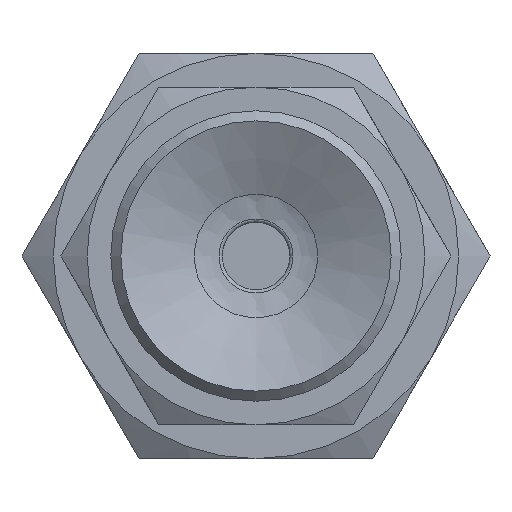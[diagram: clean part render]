
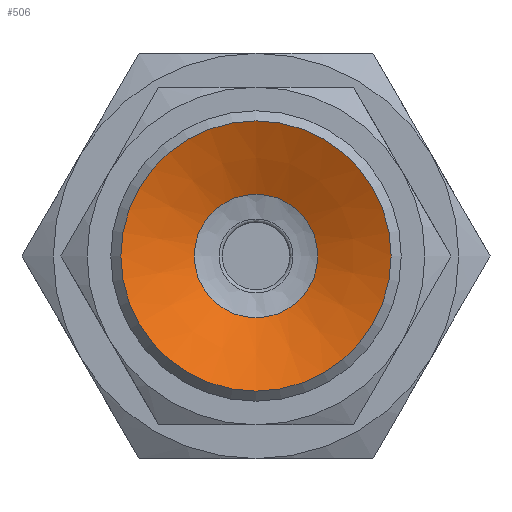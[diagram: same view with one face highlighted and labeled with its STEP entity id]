
A CAD part, front view. The second image highlights one B-rep face of the part: STEP entity #506.
In plain terms, the highlighted conical face has half-angle 65 degrees and reference radius 1.427 mm.
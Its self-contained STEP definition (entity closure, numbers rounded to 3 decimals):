
#506=ADVANCED_FACE('',(#780,#781),#782,.F.);
#780=FACE_BOUND('',#1067,.T.);
#781=FACE_OUTER_BOUND('',#1068,.T.);
#782=CONICAL_SURFACE('',#1069,1.427,1.134);
#1067=EDGE_LOOP('',(#1853));
#1068=EDGE_LOOP('',(#1854));
#1069=AXIS2_PLACEMENT_3D('',#1855,#1856,#1857);
#1853=ORIENTED_EDGE('',*,*,#2092,.T.);
#1854=ORIENTED_EDGE('',*,*,#2079,.T.);
#1855=CARTESIAN_POINT('',(0.0,7.096,0.));
#1856=DIRECTION('',(-0.0,-1.0,0.));
#1857=DIRECTION('',(0.0,0.,-1.0));
#2079=EDGE_CURVE('',#2420,#2420,#2421,.T.);
#2092=EDGE_CURVE('',#2446,#2446,#2447,.T.);
#2420=VERTEX_POINT('',#3200);
#2421=CIRCLE('',#3201,4.0);
#2446=VERTEX_POINT('',#3226);
#2447=CIRCLE('',#3227,1.828);
#3200=CARTESIAN_POINT('',(0.0,5.896,-4.0));
#3201=AXIS2_PLACEMENT_3D('',#3498,#3499,#3500);
#3226=CARTESIAN_POINT('',(0.0,6.909,-1.828));
#3227=AXIS2_PLACEMENT_3D('',#3537,#3538,#3539);
#3498=CARTESIAN_POINT('',(0.0,5.896,0.0));
#3499=DIRECTION('',(0.0,-1.0,0.));
#3500=DIRECTION('',(0.0,0.,-1.0));
#3537=CARTESIAN_POINT('',(0.0,6.909,0.0));
#3538=DIRECTION('',(0.0,1.0,0.));
#3539=DIRECTION('',(0.0,0.,-1.0));
